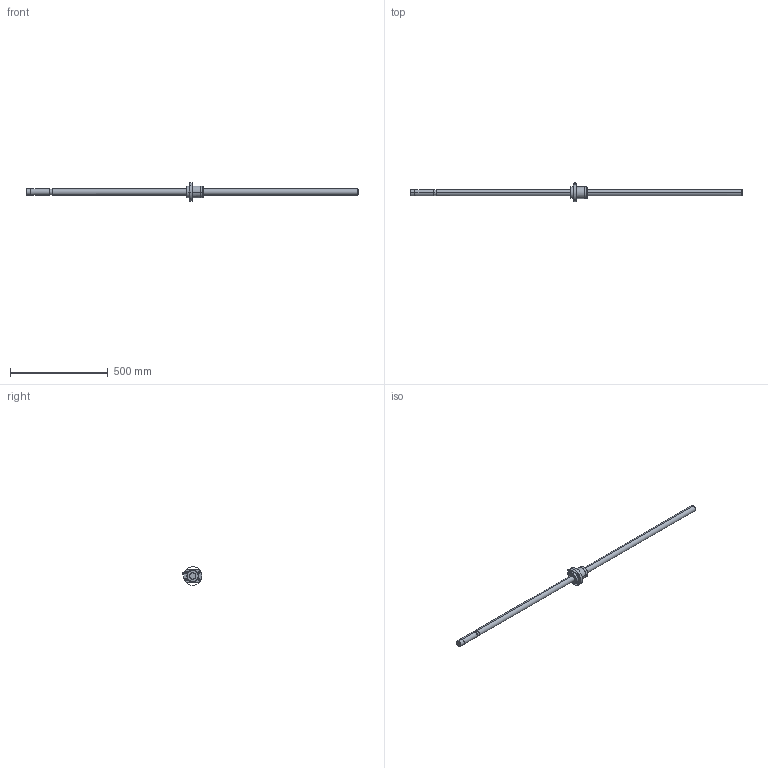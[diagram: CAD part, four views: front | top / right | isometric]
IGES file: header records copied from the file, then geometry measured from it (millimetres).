
Global section: file name: No Iges File Name specified; native system: AutoDesk Inventor R10; preprocessor: AutoDesk Inventor Iges Exporter R10; author: No Author specified; organization: No Organization specified; date: 20101224.134808; units: millimetre
Bounding box: 1700 x 101.33 x 93.9 mm (x, y, z)
Surface area: 212017.7 mm2 (no closed solid volume)
Topology: 0 solids, 0 shells, 78 faces, 478 edges, 474 vertices
Faces by surface type: bspline 78
